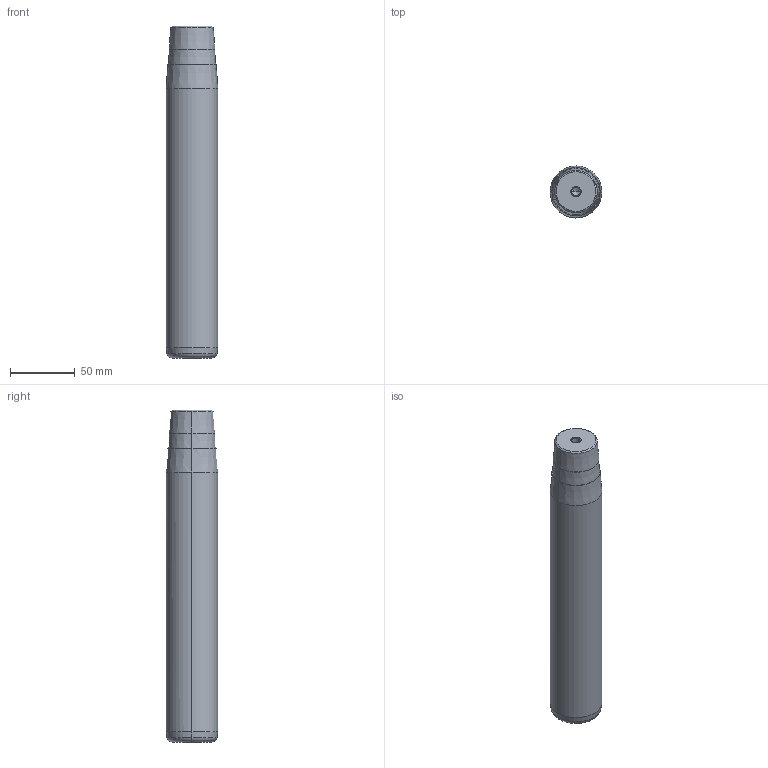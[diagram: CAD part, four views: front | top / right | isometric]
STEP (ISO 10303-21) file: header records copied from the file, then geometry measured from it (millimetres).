
FILE_DESCRIPTION(('CATIA V5 STEP Exchange'),'2;1');
FILE_NAME('C:\Users\Utente\Desktop\IO LAVORO\3D X SITO CF\X SITO\722\722-40x224x257.stp','2021-01-08T15:34:07+00:00',('none'),('none'),'CATIA Version 5 Release 20 GA (IN-10)','CATIA V5 STEP AP203','none');
FILE_SCHEMA(('CONFIG_CONTROL_DESIGN'));
Length unit declared in the file: millimetre
Products named in the file (1): 722-40x224x257
Bounding box: 40 x 40 x 257 mm (x, y, z)
Volume: 309595.2 mm3; surface area: 34632.4 mm2
Topology: 1 solids, 1 shells, 32 faces, 66 edges, 34 vertices
Faces by surface type: cone 22, cylinder 6, plane 2, torus 2
Entity records: 866 total; most frequent: CARTESIAN_POINT 189, ORIENTED_EDGE 124, DIRECTION 123, AXIS2_PLACEMENT_3D 64, EDGE_CURVE 62, EDGE_LOOP 34, VERTEX_POINT 34, ADVANCED_FACE 32
